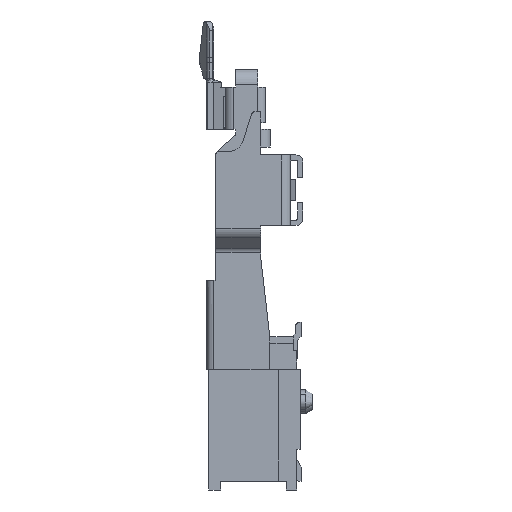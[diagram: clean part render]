
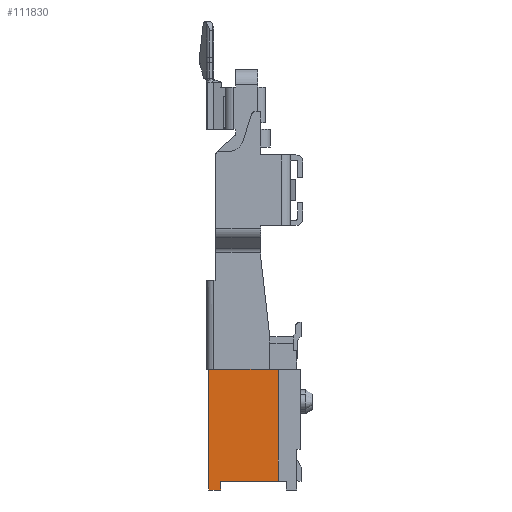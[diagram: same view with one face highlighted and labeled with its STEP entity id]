
A CAD part, left-side view. The second image highlights one B-rep face of the part: STEP entity #111830.
In plain terms, the highlighted planar face has unit normal (-1, 0, 0).
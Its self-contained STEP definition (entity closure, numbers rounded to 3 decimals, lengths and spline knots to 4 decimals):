
#27553=ORIENTED_EDGE('',*,*,#39666,.T.);
#27554=ORIENTED_EDGE('',*,*,#39660,.F.);
#27555=ORIENTED_EDGE('',*,*,#39654,.F.);
#27556=ORIENTED_EDGE('',*,*,#39642,.F.);
#27557=ORIENTED_EDGE('',*,*,#39649,.F.);
#27558=ORIENTED_EDGE('',*,*,#39668,.F.);
#39642=EDGE_CURVE('',#47642,#47643,#57534,.T.);
#39649=EDGE_CURVE('',#47645,#47642,#57541,.T.);
#39654=EDGE_CURVE('',#47643,#47647,#57546,.T.);
#39660=EDGE_CURVE('',#47647,#47649,#57552,.T.);
#39666=EDGE_CURVE('',#47651,#47649,#57555,.T.);
#39668=EDGE_CURVE('',#47651,#47645,#57557,.T.);
#47642=VERTEX_POINT('',#165471);
#47643=VERTEX_POINT('',#165472);
#47645=VERTEX_POINT('',#165482);
#47647=VERTEX_POINT('',#165496);
#47649=VERTEX_POINT('',#165506);
#47651=VERTEX_POINT('',#165519);
#57534=LINE('',#165470,#67440);
#57541=LINE('',#165483,#67447);
#57546=LINE('',#165495,#67452);
#57552=LINE('',#165505,#67458);
#57555=LINE('',#165518,#67461);
#57557=LINE('',#165523,#67463);
#67440=VECTOR('',#140536,1000.);
#67447=VECTOR('',#140547,1000.);
#67452=VECTOR('',#140564,1000.);
#67458=VECTOR('',#140574,1000.);
#67461=VECTOR('',#140593,1000.);
#67463=VECTOR('',#140599,1000.);
#71604=EDGE_LOOP('',(#27553,#27554,#27555,#27556,#27557,#27558));
#75745=FACE_BOUND('',#71604,.T.);
#78763=PLANE('',#118121);
#111830=ADVANCED_FACE('',(#75745),#78763,.F.);
#118121=AXIS2_PLACEMENT_3D('',#165524,#140600,#140601);
#140536=DIRECTION('',(0.,0.,-1.));
#140547=DIRECTION('',(0.,1.,0.));
#140564=DIRECTION('',(0.,1.,0.));
#140574=DIRECTION('',(0.,0.,1.));
#140593=DIRECTION('',(0.,1.,0.));
#140599=DIRECTION('',(0.,0.,-1.));
#140600=DIRECTION('',(1.,0.,0.));
#140601=DIRECTION('',(0.,0.,-1.));
#165470=CARTESIAN_POINT('',(-35.5,1.86,-8.2));
#165471=CARTESIAN_POINT('',(-35.5,1.86,-8.2));
#165472=CARTESIAN_POINT('',(-35.5,1.86,-8.7));
#165482=CARTESIAN_POINT('',(-35.5,-1.41,-8.2));
#165483=CARTESIAN_POINT('',(-35.5,-1.41,-8.2));
#165495=CARTESIAN_POINT('',(-35.5,1.86,-8.7));
#165496=CARTESIAN_POINT('',(-35.5,2.54,-8.7));
#165505=CARTESIAN_POINT('',(-35.5,2.54,-8.7));
#165506=CARTESIAN_POINT('',(-35.5,2.54,-1.85));
#165518=CARTESIAN_POINT('',(-35.5,-1.41,-1.85));
#165519=CARTESIAN_POINT('',(-35.5,-1.41,-1.85));
#165523=CARTESIAN_POINT('',(-35.5,-1.41,-1.85));
#165524=CARTESIAN_POINT('',(-35.5,0.,0.));
